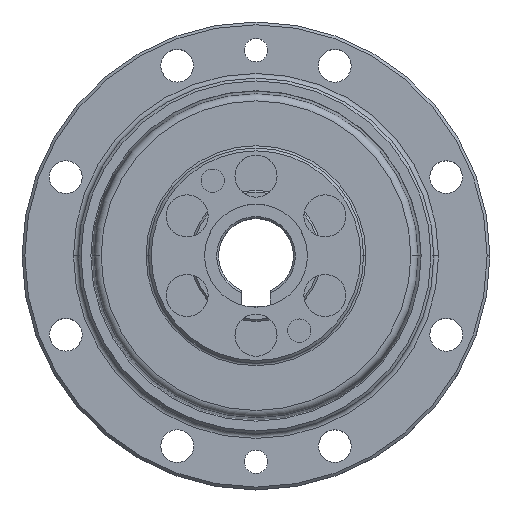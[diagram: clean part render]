
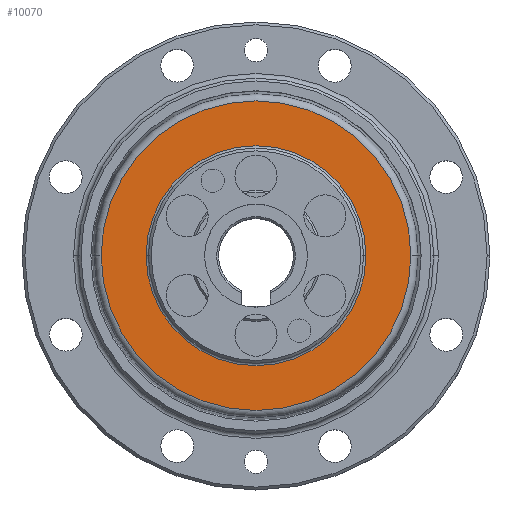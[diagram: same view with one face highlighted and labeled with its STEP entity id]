
A CAD part, top view. The second image highlights one B-rep face of the part: STEP entity #10070.
In plain terms, the highlighted planar face has unit normal (0, 0, 1).
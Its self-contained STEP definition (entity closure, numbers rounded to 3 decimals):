
#98 = EDGE_CURVE ( 'NONE', #653, #864, #6187, .T. ) ;
#101 = EDGE_CURVE ( 'NONE', #4659, #4652, #2403, .T. ) ;
#537 = EDGE_CURVE ( 'NONE', #4652, #4659, #5904, .T. ) ;
#593 = EDGE_CURVE ( 'NONE', #864, #653, #9668, .T. ) ;
#653 = VERTEX_POINT ( 'NONE', #7916 ) ;
#864 = VERTEX_POINT ( 'NONE', #3733 ) ;
#1244 = CARTESIAN_POINT ( 'NONE',  ( -16.544, 0., 13.45 ) ) ;
#1784 = CARTESIAN_POINT ( 'NONE',  ( 16.544, 0., 13.45 ) ) ;
#2005 = DIRECTION ( 'NONE',  ( 1., 0., 0. ) ) ;
#2378 = DIRECTION ( 'NONE',  ( 1., 0., 0. ) ) ;
#2403 = CIRCLE ( 'NONE', #8124, 16.544 ) ;
#2765 = FACE_OUTER_BOUND ( 'NONE', #5632, .T. ) ;
#3096 = DIRECTION ( 'NONE',  ( 0., 0., 1. ) ) ;
#3733 = CARTESIAN_POINT ( 'NONE',  ( -11.75, 0., 13.45 ) ) ;
#3773 = CARTESIAN_POINT ( 'NONE',  ( 0., 0., 13.45 ) ) ;
#4397 = ORIENTED_EDGE ( 'NONE', *, *, #98, .F. ) ;
#4652 = VERTEX_POINT ( 'NONE', #1784 ) ;
#4659 = VERTEX_POINT ( 'NONE', #1244 ) ;
#4852 = FACE_BOUND ( 'NONE', #7518, .T. ) ;
#5293 = CARTESIAN_POINT ( 'NONE',  ( 0., 11.75, 13.45 ) ) ;
#5361 = AXIS2_PLACEMENT_3D ( 'NONE', #3773, #3096, #8234 ) ;
#5373 = DIRECTION ( 'NONE',  ( 0., 0., 1. ) ) ;
#5522 = CARTESIAN_POINT ( 'NONE',  ( 0., 0., 13.45 ) ) ;
#5628 = CARTESIAN_POINT ( 'NONE',  ( 0., 0., 13.45 ) ) ;
#5632 = EDGE_LOOP ( 'NONE', ( #9683, #9606 ) ) ;
#5659 = DIRECTION ( 'NONE',  ( 0., 0., 1. ) ) ;
#5703 = PLANE ( 'NONE',  #9429 ) ;
#5904 = CIRCLE ( 'NONE', #5361, 16.544 ) ;
#5938 = DIRECTION ( 'NONE',  ( 0., 0., -1. ) ) ;
#6039 = DIRECTION ( 'NONE',  ( -1., 0., 0. ) ) ;
#6187 = CIRCLE ( 'NONE', #7098, 11.75 ) ;
#6341 = DIRECTION ( 'NONE',  ( 1., 0., 0. ) ) ;
#6368 = ORIENTED_EDGE ( 'NONE', *, *, #593, .F. ) ;
#6462 = DIRECTION ( 'NONE',  ( 0., 0., 1. ) ) ;
#7098 = AXIS2_PLACEMENT_3D ( 'NONE', #5628, #6462, #2005 ) ;
#7518 = EDGE_LOOP ( 'NONE', ( #4397, #6368 ) ) ;
#7916 = CARTESIAN_POINT ( 'NONE',  ( 11.75, 0., 13.45 ) ) ;
#8124 = AXIS2_PLACEMENT_3D ( 'NONE', #5522, #5659, #6341 ) ;
#8234 = DIRECTION ( 'NONE',  ( 1., 0., 0. ) ) ;
#9429 = AXIS2_PLACEMENT_3D ( 'NONE', #5293, #5938, #6039 ) ;
#9573 = CARTESIAN_POINT ( 'NONE',  ( 0., 0., 13.45 ) ) ;
#9587 = AXIS2_PLACEMENT_3D ( 'NONE', #9573, #5373, #2378 ) ;
#9606 = ORIENTED_EDGE ( 'NONE', *, *, #101, .T. ) ;
#9668 = CIRCLE ( 'NONE', #9587, 11.75 ) ;
#9683 = ORIENTED_EDGE ( 'NONE', *, *, #537, .T. ) ;
#10070 = ADVANCED_FACE ( 'NONE', ( #4852, #2765 ), #5703, .F. ) ;
